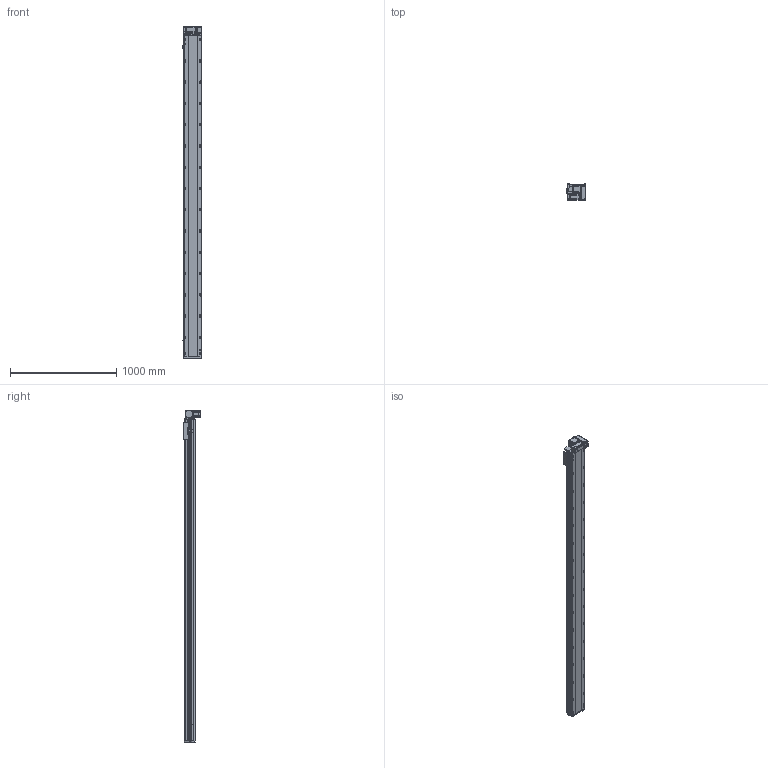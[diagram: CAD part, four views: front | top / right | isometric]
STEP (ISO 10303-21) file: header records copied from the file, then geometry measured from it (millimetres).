
FILE_DESCRIPTION (( 'STEP AP214' ), '1' );
FILE_NAME ('RTB17S-XX-2750-RM-M40-C4.STEP', '2025-12-11T08:33:10', ( '' ), ( '' ), 'SwSTEP 2.0', 'SolidWorks 2018', '' );
FILE_SCHEMA (( 'AUTOMOTIVE_DESIGN' ));
Length unit declared in the file: millimetre
Products named in the file (14): RTB17S-L-004佪裝蹟譫蟀諉釱^RTB17S-XX-XX-RM-M40-C4; RTB17-R-011菁釱^RTB17S-XX-XX-RM-M40-C4; RTB14-L-017P^RTB17S-RM-々湍釱蚾饜-400W_RTB17S-XX-XX-RM-M40-C4; RTB17S-L-001耜醱啣^RTB17S-XX-XX-RM-M40-C4; RTH13-BL-012覜茼え俋离^RTB17S-XX-XX-RM-M40-C4; 400W侜督萇儂^RTB17S-XX-XX-RM-M40-C4; OMRON EE-SX672 传感器^RTB17S-XX-XX-RM-M40-C4; RTB17S-L-014-T20--々湍釱^RTB17S-RM-々湍釱蚾饜-400W_RTB17S-XX-XX-RM-M40-C4; RTB14-L-005P--轴承塑胶压盖^RTB17S-RM-皮带座装配-400W_RTB17S-XX-XX-RM-M40-C4; RTB17S-RM-々湍釱蚾饜-400W^RTB17S-XX-XX-RM-M40-C4; RTB17S-XX-2750-RM-M40-C4; RTB14-L-018P^RTB17S-RM-々湍釱蚾饜-400W_RTB17S-XX-XX-RM-M40-C4; RTB14-L-008-M20--萇儂啣^RTB17S-RM-々湍釱蚾饜-400W_RTB17S-XX-XX-RM-M40-C4; RTB17S-L-007奻裔^RTB17S-XX-XX-RM-M40-C4
Assembly tree (16 placements, depth 3):
  RTB17S-XX-2750-RM-M40-C4
    RTB17-R-011菁釱^RTB17S-XX-XX-RM-M40-C4
    RTB17S-L-007奻裔^RTB17S-XX-XX-RM-M40-C4
    OMRON EE-SX672 传感器^RTB17S-XX-XX-RM-M40-C4  x3
    RTB17S-L-001耜醱啣^RTB17S-XX-XX-RM-M40-C4
    400W侜督萇儂^RTB17S-XX-XX-RM-M40-C4
    RTB17S-L-004佪裝蹟譫蟀諉釱^RTB17S-XX-XX-RM-M40-C4
    RTH13-BL-012覜茼え俋离^RTB17S-XX-XX-RM-M40-C4
    RTB17S-RM-々湍釱蚾饜-400W^RTB17S-XX-XX-RM-M40-C4
      RTB17S-L-014-T20--々湍釱^RTB17S-RM-々湍釱蚾饜-400W_RTB17S-XX-XX-RM-M40-C4
      RTB14-L-005P--轴承塑胶压盖^RTB17S-RM-皮带座装配-400W_RTB17S-XX-XX-RM-M40-C4
      RTB14-L-008-M20--萇儂啣^RTB17S-RM-々湍釱蚾饜-400W_RTB17S-XX-XX-RM-M40-C4
      RTB14-L-017P^RTB17S-RM-々湍釱蚾饜-400W_RTB17S-XX-XX-RM-M40-C4  x2
      RTB14-L-018P^RTB17S-RM-々湍釱蚾饜-400W_RTB17S-XX-XX-RM-M40-C4
Bounding box: 183.5 x 156.5 x 3122.5 mm (x, y, z)
Volume: 26645448.9 mm3; surface area: 3054324.8 mm2
Topology: 15 solids, 15 shells, 2349 faces, 6573 edges, 4293 vertices
Faces by surface type: plane 1086, cylinder 815, bspline 301, cone 139, torus 8
Entity records: 69545 total; most frequent: CARTESIAN_POINT 19778, ORIENTED_EDGE 9990, DIRECTION 9206, EDGE_CURVE 4995, VERTEX_POINT 3281, AXIS2_PLACEMENT_3D 3211, VECTOR 2784, LINE 2784
